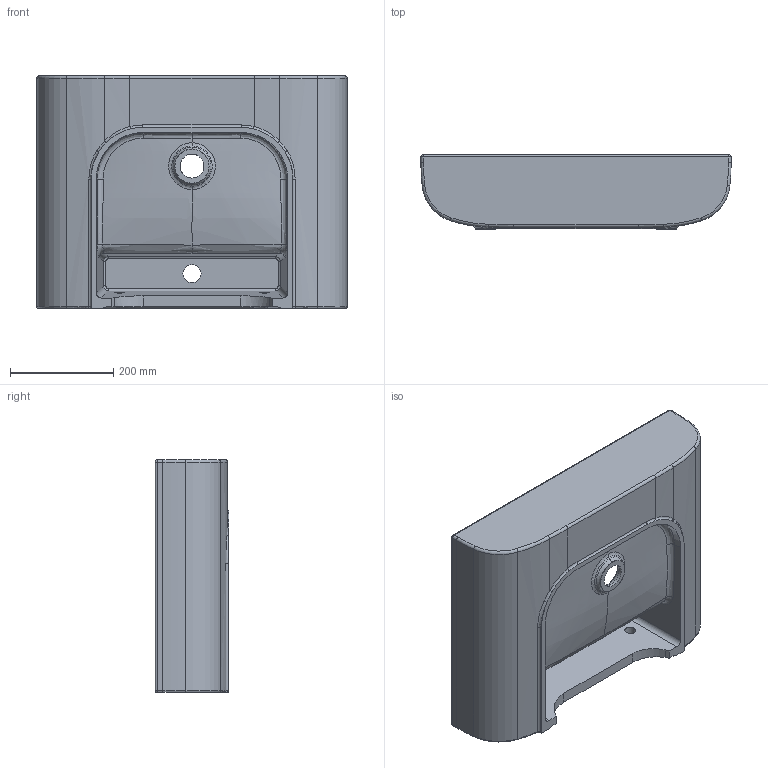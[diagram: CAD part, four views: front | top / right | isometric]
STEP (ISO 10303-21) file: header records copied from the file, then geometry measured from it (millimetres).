
FILE_DESCRIPTION (( 'STEP AP203' ), '1' );
FILE_NAME ('LELP0604500M.STEP', '2023-03-30T10:54:22', ( '' ), ( '' ), 'SwSTEP 2.0', 'SolidWorks 2023', '' );
FILE_SCHEMA (( 'CONFIG_CONTROL_DESIGN' ));
Products named in the file (1): LELP0604500M
Bounding box: 599.93 x 143 x 450 mm (x, y, z)
Volume: 11110283.9 mm3; surface area: 1010280.8 mm2
Topology: 1 solids, 1 shells, 152 faces, 401 edges, 251 vertices
Faces by surface type: bspline 62, cylinder 40, torus 24, plane 22, cone 4
Full cylindrical faces by diameter (mm): 20 x2, 35 x1, 46 x1, 66 x1
Entity records: 32087 total; most frequent: CARTESIAN_POINT 28749, ORIENTED_EDGE 782, DIRECTION 561, EDGE_CURVE 391, VERTEX_POINT 246, AXIS2_PLACEMENT_3D 235, EDGE_LOOP 165, FACE_OUTER_BOUND 157
